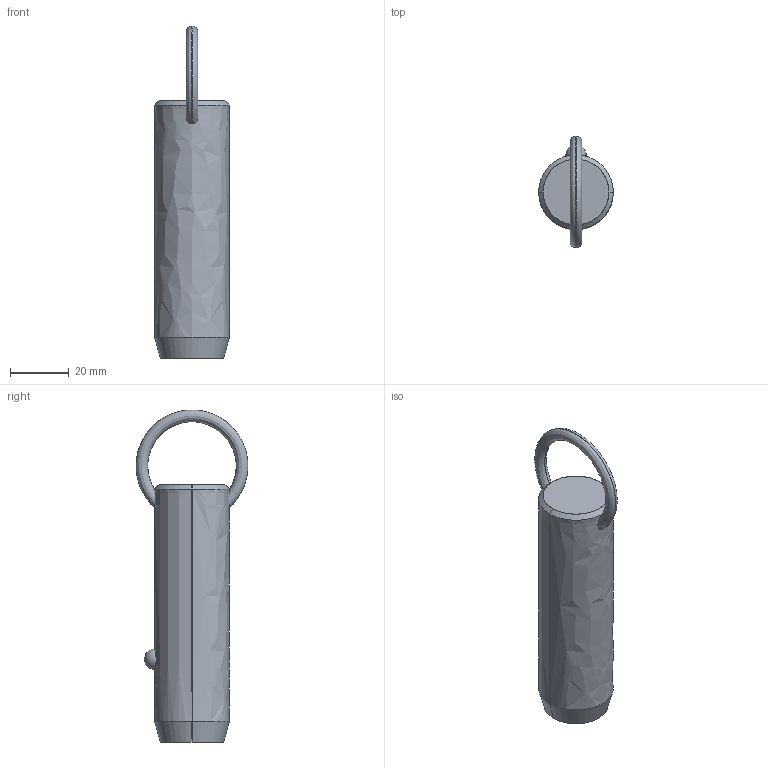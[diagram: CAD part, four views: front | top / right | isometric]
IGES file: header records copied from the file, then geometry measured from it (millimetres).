
Start section: SolidWorks IGES file using analytic representation for surfaces
Global section: file name: C:\Users\liam_\OneDrive\Documents\WORK\Work for WixRoyd\Job Files\J-00019 - Matt Davis CAD Checking\04. CAD Drawings\automotion20190605\P1250.2_v2\P1250.2_v2_20190729_IGES\P1250.100-170.igs; native system: SolidWorks 2017; preprocessor: SolidWorks 2017; author: liam_; date: 190730.173410; units: millimetre
Bounding box: 25.4 x 38.09 x 113 mm (x, y, z)
Surface area: 8763.5 mm2 (no closed solid volume)
Topology: 0 solids, 0 shells, 12 faces, 298 edges, 296 vertices
Faces by surface type: revolution 8, bspline 4
